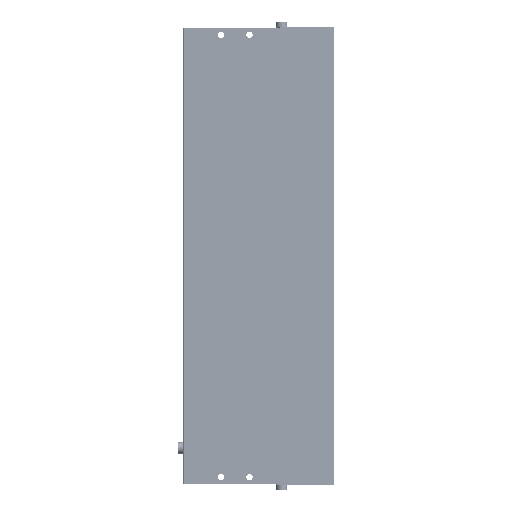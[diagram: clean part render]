
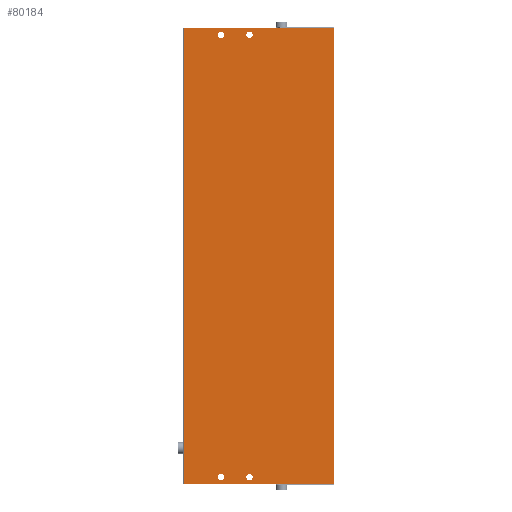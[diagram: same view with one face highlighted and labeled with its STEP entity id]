
A CAD part, front view. The second image highlights one B-rep face of the part: STEP entity #80184.
In plain terms, the highlighted planar face has unit normal (0, -1, 0).
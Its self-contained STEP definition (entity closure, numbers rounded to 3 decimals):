
#50952=DIRECTION('',(1.,0.,0.));
#50953=VECTOR('',#50952,105.);
#50954=CARTESIAN_POINT('',(-52.5,-16.9,320.));
#50955=LINE('',#50954,#50953);
#51080=DIRECTION('',(-1.,0.,0.));
#51081=VECTOR('',#51080,105.);
#51082=CARTESIAN_POINT('',(52.5,-16.9,0.));
#51083=LINE('',#51082,#51081);
#51749=DIRECTION('',(0.,0.,1.));
#51750=VECTOR('',#51749,320.);
#51751=CARTESIAN_POINT('',(-52.5,-16.9,0.));
#51752=LINE('',#51751,#51750);
#51753=CARTESIAN_POINT('',(-6.5,-16.9,5.));
#51754=DIRECTION('',(0.,1.,0.));
#51755=DIRECTION('',(0.,0.,-1.));
#51756=AXIS2_PLACEMENT_3D('',#51753,#51754,#51755);
#51758=CARTESIAN_POINT('',(-6.5,-16.9,5.));
#51759=DIRECTION('',(0.,1.,0.));
#51760=DIRECTION('',(0.,0.,1.));
#51761=AXIS2_PLACEMENT_3D('',#51758,#51759,#51760);
#51763=CARTESIAN_POINT('',(-26.5,-16.9,5.));
#51764=DIRECTION('',(0.,1.,0.));
#51765=DIRECTION('',(0.,0.,-1.));
#51766=AXIS2_PLACEMENT_3D('',#51763,#51764,#51765);
#51768=CARTESIAN_POINT('',(-26.5,-16.9,5.));
#51769=DIRECTION('',(0.,1.,0.));
#51770=DIRECTION('',(0.,0.,1.));
#51771=AXIS2_PLACEMENT_3D('',#51768,#51769,#51770);
#51773=CARTESIAN_POINT('',(-6.5,-16.9,315.));
#51774=DIRECTION('',(0.,1.,0.));
#51775=DIRECTION('',(0.,0.,1.));
#51776=AXIS2_PLACEMENT_3D('',#51773,#51774,#51775);
#51778=CARTESIAN_POINT('',(-6.5,-16.9,315.));
#51779=DIRECTION('',(0.,1.,0.));
#51780=DIRECTION('',(0.,0.,-1.));
#51781=AXIS2_PLACEMENT_3D('',#51778,#51779,#51780);
#51783=CARTESIAN_POINT('',(-26.5,-16.9,315.));
#51784=DIRECTION('',(0.,1.,0.));
#51785=DIRECTION('',(0.,0.,1.));
#51786=AXIS2_PLACEMENT_3D('',#51783,#51784,#51785);
#51788=CARTESIAN_POINT('',(-26.5,-16.9,315.));
#51789=DIRECTION('',(0.,1.,0.));
#51790=DIRECTION('',(0.,0.,-1.));
#51791=AXIS2_PLACEMENT_3D('',#51788,#51789,#51790);
#51797=DIRECTION('',(0.,0.,-1.));
#51798=VECTOR('',#51797,320.);
#51799=CARTESIAN_POINT('',(52.5,-16.9,320.));
#51800=LINE('',#51799,#51798);
#73917=CARTESIAN_POINT('',(-6.5,-16.9,2.75));
#73918=CARTESIAN_POINT('',(-6.5,-16.9,7.25));
#73919=VERTEX_POINT('',#73917);
#73920=VERTEX_POINT('',#73918);
#74457=CARTESIAN_POINT('',(-6.5,-16.9,317.25));
#74458=CARTESIAN_POINT('',(-6.5,-16.9,312.75));
#74459=VERTEX_POINT('',#74457);
#74460=VERTEX_POINT('',#74458);
#74499=CARTESIAN_POINT('',(-26.5,-16.9,2.75));
#74500=CARTESIAN_POINT('',(-26.5,-16.9,7.25));
#74501=VERTEX_POINT('',#74499);
#74502=VERTEX_POINT('',#74500);
#74648=CARTESIAN_POINT('',(-26.5,-16.9,312.75));
#74649=CARTESIAN_POINT('',(-26.5,-16.9,317.25));
#74650=VERTEX_POINT('',#74648);
#74651=VERTEX_POINT('',#74649);
#76628=CARTESIAN_POINT('',(-52.5,-16.9,320.));
#76629=CARTESIAN_POINT('',(52.5,-16.9,320.));
#76630=VERTEX_POINT('',#76628);
#76631=VERTEX_POINT('',#76629);
#76905=CARTESIAN_POINT('',(52.5,-16.9,0.));
#76906=VERTEX_POINT('',#76905);
#77614=CARTESIAN_POINT('',(-52.5,-16.9,0.));
#77615=VERTEX_POINT('',#77614);
#80148=CARTESIAN_POINT('',(-53.,-16.9,0.));
#80149=DIRECTION('',(0.,-1.,0.));
#80150=DIRECTION('',(0.,0.,-1.));
#80151=AXIS2_PLACEMENT_3D('',#80148,#80149,#80150);
#80152=PLANE('',#80151);
#80153=ORIENTED_EDGE('',*,*,#80142,.T.);
#80154=ORIENTED_EDGE('',*,*,#79565,.T.);
#80156=ORIENTED_EDGE('',*,*,#80155,.T.);
#80157=ORIENTED_EDGE('',*,*,#79689,.T.);
#80158=EDGE_LOOP('',(#80153,#80154,#80156,#80157));
#80159=FACE_OUTER_BOUND('',#80158,.F.);
#80161=ORIENTED_EDGE('',*,*,#80160,.F.);
#80163=ORIENTED_EDGE('',*,*,#80162,.F.);
#80164=EDGE_LOOP('',(#80161,#80163));
#80165=FACE_BOUND('',#80164,.F.);
#80167=ORIENTED_EDGE('',*,*,#80166,.F.);
#80169=ORIENTED_EDGE('',*,*,#80168,.F.);
#80170=EDGE_LOOP('',(#80167,#80169));
#80171=FACE_BOUND('',#80170,.F.);
#80173=ORIENTED_EDGE('',*,*,#80172,.F.);
#80175=ORIENTED_EDGE('',*,*,#80174,.F.);
#80176=EDGE_LOOP('',(#80173,#80175));
#80177=FACE_BOUND('',#80176,.F.);
#80179=ORIENTED_EDGE('',*,*,#80178,.F.);
#80181=ORIENTED_EDGE('',*,*,#80180,.F.);
#80182=EDGE_LOOP('',(#80179,#80181));
#80183=FACE_BOUND('',#80182,.F.);
#80184=ADVANCED_FACE('',(#80159,#80165,#80171,#80177,#80183),#80152,.T.);
#51757=CIRCLE('',#51756,2.25);
#51762=CIRCLE('',#51761,2.25);
#51767=CIRCLE('',#51766,2.25);
#51772=CIRCLE('',#51771,2.25);
#51777=CIRCLE('',#51776,2.25);
#51782=CIRCLE('',#51781,2.25);
#51787=CIRCLE('',#51786,2.25);
#51792=CIRCLE('',#51791,2.25);
#79565=EDGE_CURVE('',#76630,#76631,#50955,.T.);
#79689=EDGE_CURVE('',#76906,#77615,#51083,.T.);
#80142=EDGE_CURVE('',#77615,#76630,#51752,.T.);
#80155=EDGE_CURVE('',#76631,#76906,#51800,.T.);
#80160=EDGE_CURVE('',#73919,#73920,#51757,.T.);
#80162=EDGE_CURVE('',#73920,#73919,#51762,.T.);
#80166=EDGE_CURVE('',#74501,#74502,#51767,.T.);
#80168=EDGE_CURVE('',#74502,#74501,#51772,.T.);
#80172=EDGE_CURVE('',#74459,#74460,#51777,.T.);
#80174=EDGE_CURVE('',#74460,#74459,#51782,.T.);
#80178=EDGE_CURVE('',#74651,#74650,#51787,.T.);
#80180=EDGE_CURVE('',#74650,#74651,#51792,.T.);
